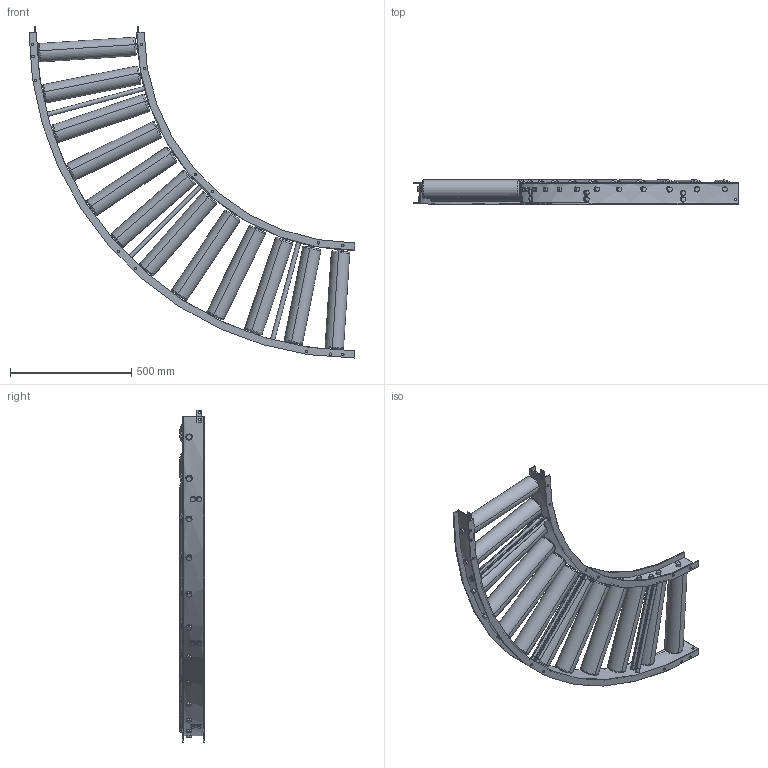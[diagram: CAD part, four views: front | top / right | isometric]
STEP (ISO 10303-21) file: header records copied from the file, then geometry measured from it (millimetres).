
FILE_DESCRIPTION (( 'STEP AP203' ), '1' );
FILE_NAME ('RZ-7642N_C.step', '2024-03-15T02:40:50', ( '' ), ( '' ), 'SwSTEP 2.0', 'SolidWorks 2023', '' );
FILE_SCHEMA (( 'CONFIG_CONTROL_DESIGN' ));
Length unit declared in the file: millimetre
Products named in the file (1): RZ-7642N_C
Bounding box: 1345 x 100.12 x 1370.12 mm (x, y, z)
Volume: 24693584.9 mm3; surface area: 3173448.1 mm2
Topology: 58 solids, 58 shells, 748 faces, 1668 edges, 1072 vertices
Faces by surface type: cylinder 328, plane 300, cone 72, torus 48
Entity records: 27683 total; most frequent: CARTESIAN_POINT 10905, DIRECTION 3478, ORIENTED_EDGE 3336, EDGE_CURVE 1668, AXIS2_PLACEMENT_3D 1437, VERTEX_POINT 1072, EDGE_LOOP 936, ADVANCED_FACE 748
